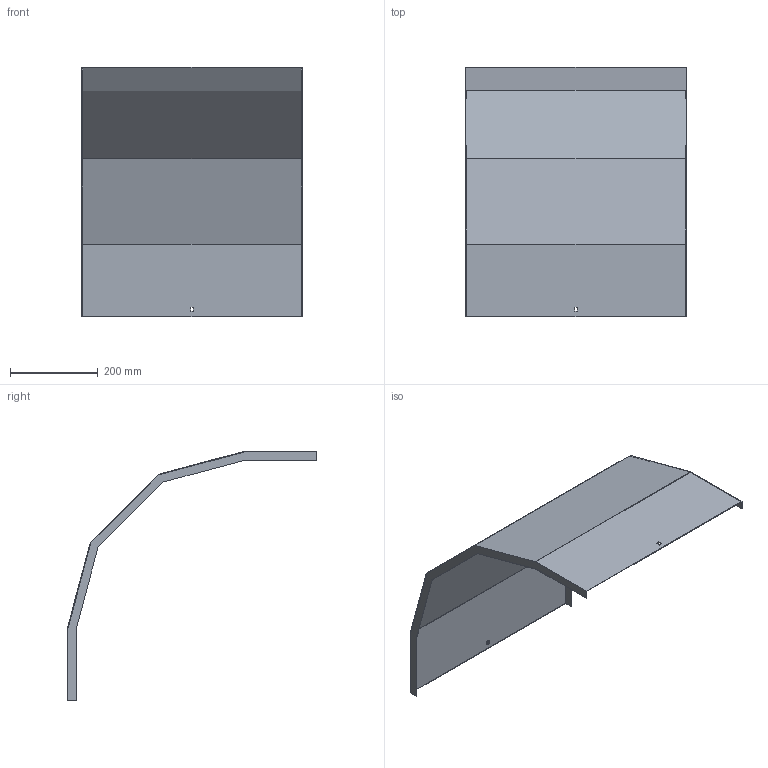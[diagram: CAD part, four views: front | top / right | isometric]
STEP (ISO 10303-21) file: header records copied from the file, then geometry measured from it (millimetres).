
FILE_DESCRIPTION (( 'STEP AP214' ), '1' );
FILE_NAME ('A2_33N3D500.step', '2025-02-21T10:45:04', ( '' ), ( '' ), 'SwSTEP 2.0', 'SolidWorks 2023', '' );
FILE_SCHEMA (( 'AUTOMOTIVE_DESIGN' ));
Length unit declared in the file: millimetre
Products named in the file (1): A2_33N3D500
Bounding box: 503 x 569.61 x 569.61 mm (x, y, z)
Volume: 773110.5 mm3; surface area: 1035305.7 mm2
Topology: 1 solids, 1 shells, 34 faces, 96 edges, 64 vertices
Faces by surface type: plane 34
Entity records: 1111 total; most frequent: CARTESIAN_POINT 195, ORIENTED_EDGE 192, DIRECTION 166, EDGE_CURVE 96, VECTOR 96, LINE 96, VERTEX_POINT 64, EDGE_LOOP 38
